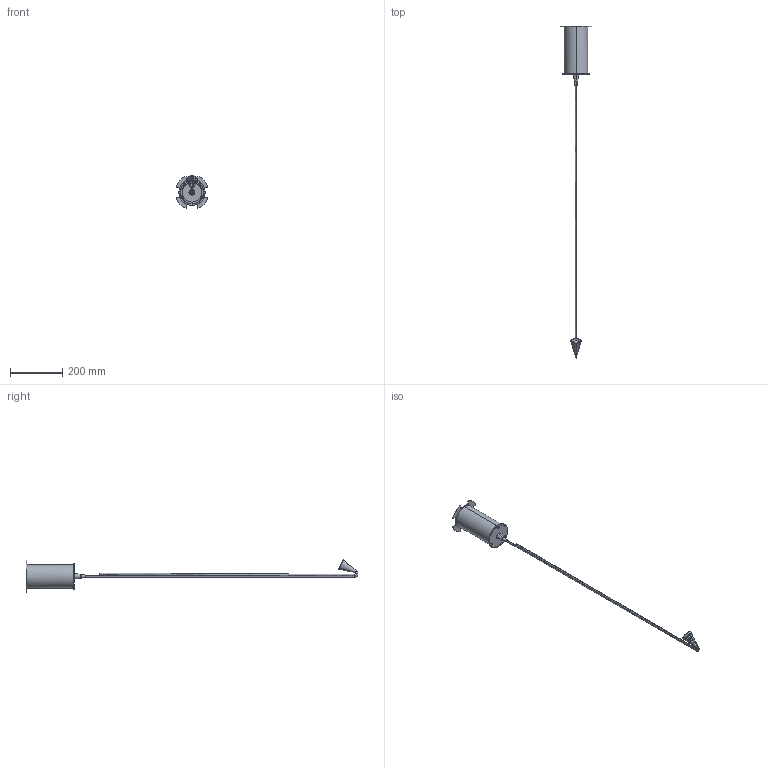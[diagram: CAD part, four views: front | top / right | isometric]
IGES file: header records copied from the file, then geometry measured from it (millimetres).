
Start section: Comment
Global section: file name: 4630.igs; native system:  By UGS Corp.; preprocessor: XPlus GENERIC/IGES 3.0; author: Author; organization: Title; date: 20110609.140215; units: millimetre
Bounding box: 122.07 x 1268.5 x 124.16 mm (x, y, z)
Surface area: 293300.3 mm2 (no closed solid volume)
Topology: 0 solids, 0 shells, 1031 faces, 5057 edges, 5036 vertices
Faces by surface type: bspline 1031
